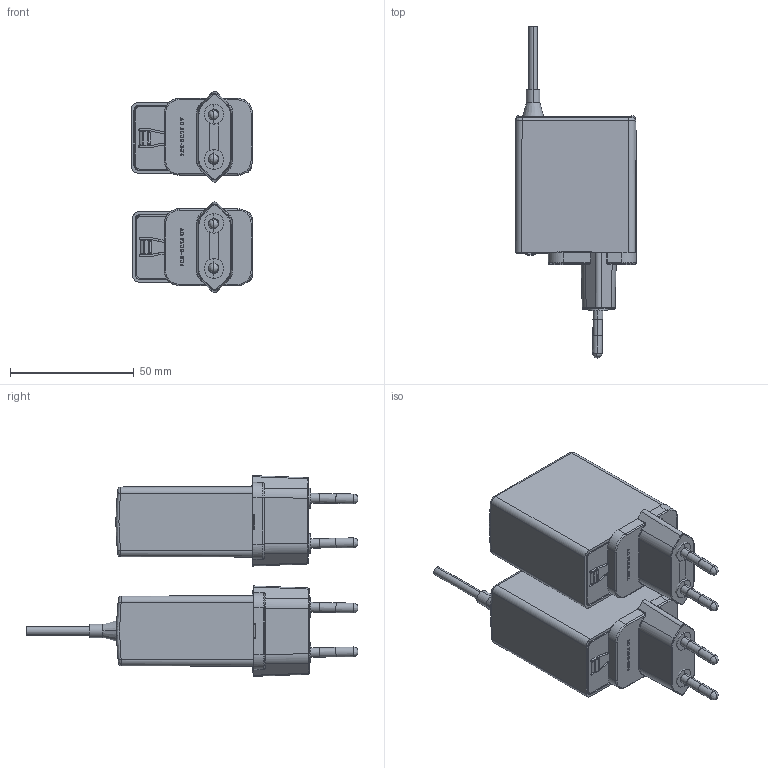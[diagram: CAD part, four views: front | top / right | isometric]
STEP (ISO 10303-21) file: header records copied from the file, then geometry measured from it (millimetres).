
FILE_DESCRIPTION(('Creo Elements/Direct Modeling STEP Export'),'2;1');
FILE_NAME('NGE12E.stp','2025-09-30T10:38:15',(''),(''),'Creo Elements/Direct Modeling STEP processor for AP214 (Solid Model)','Creo Elements/Direct Modeling 19.0G 27-Nov-2017 (C) Parametric Technology GmbH','');
FILE_SCHEMA(('AUTOMOTIVE_DESIGN { 1 0 10303 214 1 1 1 1 }'));
Length unit declared in the file: millimetre
Products named in the file (48): ZHAOFAA4CA11JC19_5_PRT_P-280860.PRT; ZHAOFAA4CA11JC19_4_PRT_P-311580.PRT; ZHAOFAA4CA11JC19_3_PRT_P-392220.PRT; ZHAOFAA4CA11JC19_2_PRT_P-405090.PRT; ZHAOFAA4CA11JC19_1_PRT_P-417770.PRT; WW_1_1_PRT_PRT-216460.PRT; WW_1_1_PRT_PRT-209920.PRT; WW_1_1_PRT_PRT-203380.PRT; USB-103LC____6_1_PRT.PRT; USB-103LC____5_1_PRT.PRT; USB-103LC____4_1_PRT.PRT; USB-103LC____3_1_PRT.PRT; USB-103LC____2_1_PRT.PRT; USB-103LC____1_1_1_PRT.PRT; BOARD.PRT; ADMI219C5045N6QM_2_PRT_PRT_PRT.PRT; ADMI219C5045N6QM_2_PRT_P-353730.PRT; ADMI219C5045N6QM_2_PRT_P-341590.PRT; ADMI219C5045N6QM_1_PRT_PRT_PRT.PRT
Assembly tree (24 placements, depth 2):
  ZHAOFAA4CA11JC19_5_PRT_P-280860.PRT
    ZHAOFAA4CA11JC19_5_PRT_P-280860.PRT
  ZHAOFAA4CA11JC19_5_PRT_P-280860.PRT
    ZHAOFAA4CA11JC19_5_PRT_P-280860.PRT
  ZHAOFAA4CA11JC19_4_PRT_P-311580.PRT
    ZHAOFAA4CA11JC19_4_PRT_P-311580.PRT
  ZHAOFAA4CA11JC19_4_PRT_P-311580.PRT
    ZHAOFAA4CA11JC19_4_PRT_P-311580.PRT
  ZHAOFAA4CA11JC19_3_PRT_P-392220.PRT
    ZHAOFAA4CA11JC19_3_PRT_P-392220.PRT
Bounding box: 48.75 x 133.9 x 80.96 mm (x, y, z)
Volume: 43077.6 mm3; surface area: 81361.5 mm2
Topology: 23 solids, 25 shells, 3785 faces, 11607 edges, 7922 vertices
Faces by surface type: plane 2647, cylinder 857, bspline 114, cone 111, torus 52, sphere 4
Entity records: 155918 total; most frequent: CARTESIAN_POINT 38747, ORIENTED_EDGE 23186, DIRECTION 18857, EDGE_CURVE 11599, VECTOR 8229, LINE 8229, VERTEX_POINT 7922, AXIS2_PLACEMENT_3D 5314
